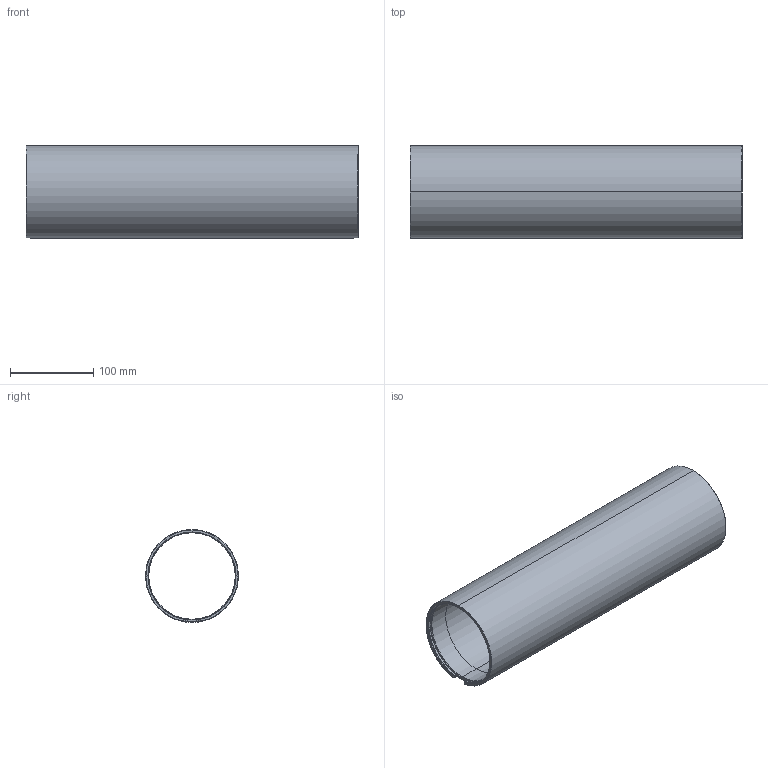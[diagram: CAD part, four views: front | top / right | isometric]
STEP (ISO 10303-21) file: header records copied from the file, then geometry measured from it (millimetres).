
FILE_DESCRIPTION (( 'STEP AP214' ), '1' );
FILE_NAME ('WTE4-M-LOCKING-TUBE-400-R2.STEP', '2022-02-01T07:27:45', ( '' ), ( '' ), 'SwSTEP 2.0', 'SolidWorks 2020', '' );
FILE_SCHEMA (( 'AUTOMOTIVE_DESIGN' ));
Length unit declared in the file: millimetre
Products named in the file (1): WTE4-M-LOCKING-TUBE-400-R2
Bounding box: 400 x 111.63 x 112 mm (x, y, z)
Volume: 528068.5 mm3; surface area: 273743 mm2
Topology: 1 solids, 1 shells, 70 faces, 180 edges, 110 vertices
Faces by surface type: cylinder 20, bspline 16, torus 12, plane 12, cone 10
Entity records: 4652 total; most frequent: CARTESIAN_POINT 3103, ORIENTED_EDGE 360, DIRECTION 258, EDGE_CURVE 180, AXIS2_PLACEMENT_3D 111, VERTEX_POINT 110, B_SPLINE_CURVE_WITH_KNOTS 84, EDGE_LOOP 70
